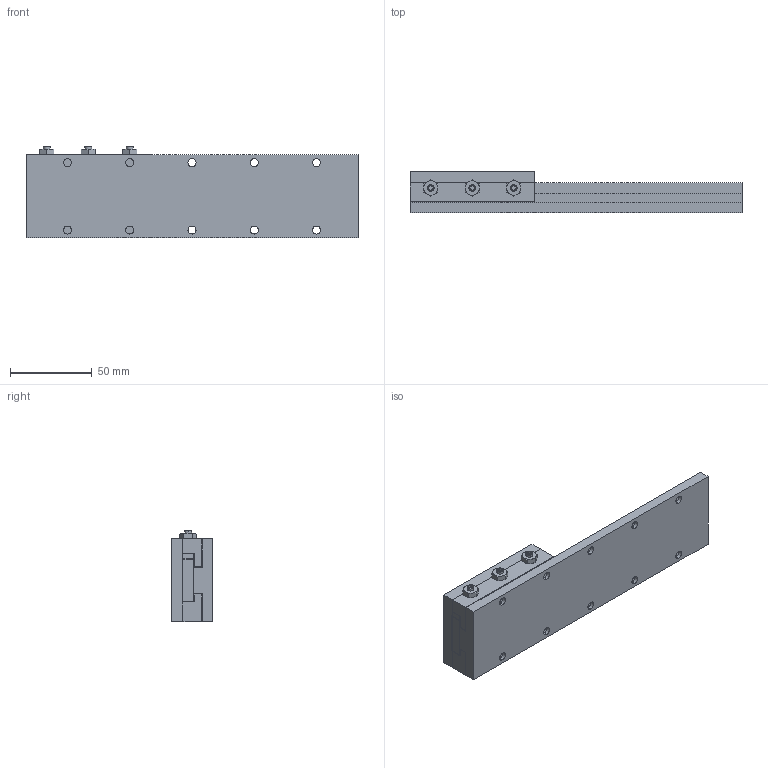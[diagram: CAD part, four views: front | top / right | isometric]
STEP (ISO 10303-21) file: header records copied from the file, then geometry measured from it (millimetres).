
FILE_DESCRIPTION (( 'STEP AP214' ), '1' );
FILE_NAME ('SW02-SL03-BL08.STEP', '2010-10-04T15:50:35', ( ' ' ), ( '' ), 'SwSTEP 2.0', 'SolidWorks 2010', '' );
FILE_SCHEMA (( 'AUTOMOTIVE_DESIGN' ));
Length unit declared in the file: inch
Products named in the file (11): SW02-SL03-BL08; _SSCUPSOC_SSCUPSKT 0.164-32x0.625-HX-N; Gen2 Baseplate_02x08 BASE; Gen2 Top plate_02x03 TPLATE; Gen2 BASE_02x08 BASE; Gen2 Hardplate_02x08 HPLATE; Gen2 Gib_02x03 GIB; Gen2 SADDLE_02x03 SADDLE; _MSHXNUT_MSHXNUT 0.164-32-D-N; Gen2 Bar_02x03 BAR; Gen2 Adj Gib_02x03 ADJ GIB
Assembly tree (14 placements, depth 3):
  SW02-SL03-BL08
    Gen2 BASE_02x08 BASE
      Gen2 Baseplate_02x08 BASE
      Gen2 Hardplate_02x08 HPLATE
    Gen2 SADDLE_02x03 SADDLE
      _MSHXNUT_MSHXNUT 0.164-32-D-N  x3
      Gen2 Bar_02x03 BAR
      Gen2 Adj Gib_02x03 ADJ GIB
      Gen2 Gib_02x03 GIB
      Gen2 Top plate_02x03 TPLATE
      _SSCUPSOC_SSCUPSKT 0.164-32x0.625-HX-N  x3
Bounding box: 203.2 x 25.4 x 56.07 mm (x, y, z)
Volume: 167570.2 mm3; surface area: 71323.2 mm2
Topology: 17 solids, 17 shells, 283 faces, 636 edges, 397 vertices
Faces by surface type: plane 139, cylinder 78, cone 66
Entity records: 6339 total; most frequent: CARTESIAN_POINT 1047, DIRECTION 996, ORIENTED_EDGE 884, EDGE_CURVE 442, AXIS2_PLACEMENT_3D 364, VERTEX_POINT 287, VECTOR 268, LINE 268
